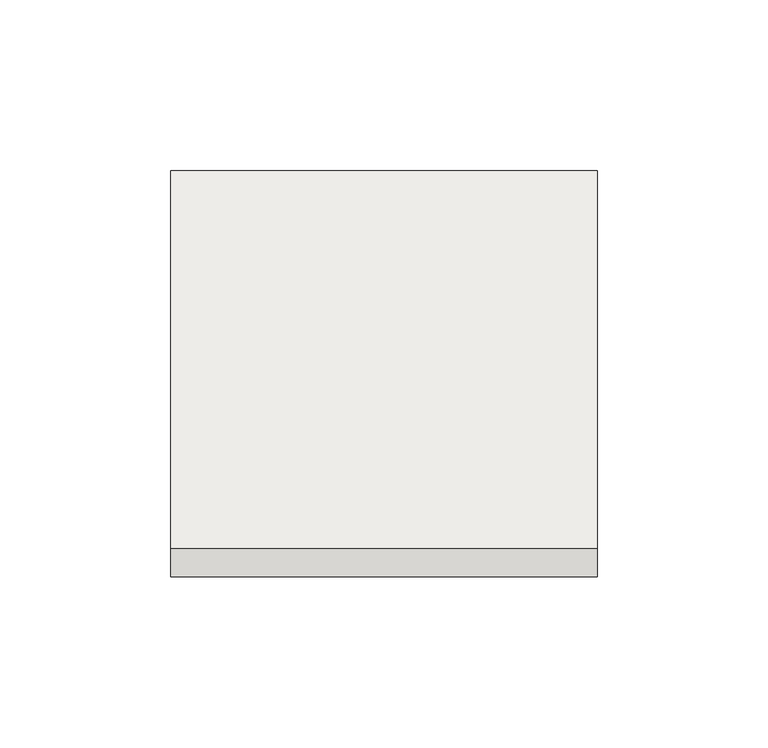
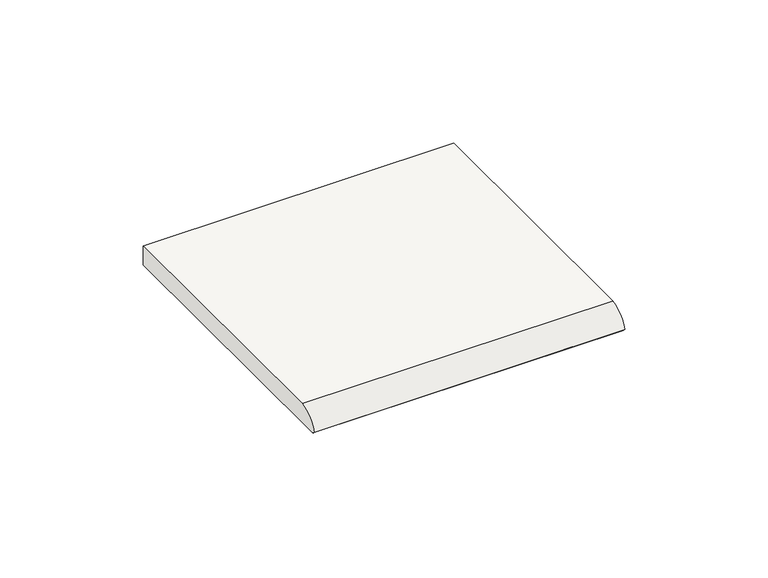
"""IFC4 building model written with IfcOpenShell, lengths in millimetres: slab geometry, ROSA GRES_013 : Pieza 013_Aqua_Marino_Liso."""

from ifc_helpers import new_model, si_unit, point, frame, frame_2d, origin, place, context, project, spatial, polyline, circle_curve, trimmed, segment, composite_curve, outline, extrude, source, transform, mapped, element, save


def slab_b96c67a0(model_context):
    return source(origin(), model_context, "Body", "SweptSolid", [
        extrude(outline(composite_curve([segment(polyline([(0.7830162, 0.0), (0.0, 0.7830162)]), True, "CONTINUOUS"), segment(trimmed(circle_curve(frame_2d((9.4741171, -1.740645)), 9.8044766), [point((0.0, 0.7830162))], [point((8.3571586, 8.0))], False, "CARTESIAN"), True, "CONTINUOUS"), segment(polyline([(8.3571586, 8.0), (119.0, 8.0), (119.0, 0.0), (0.7830162, 0.0)]), True, "CONTINUOUS")], self_intersect=False)), frame((0.0, 0.0, 0.0), z_axis=(1.0, 0.0, 0.0), x_axis=(0.0, 1.0, 0.0)), (0.0, 0.0, 1.0), 125.0),
    ])


if __name__ == "__main__":
    model = new_model("IFC4")
    model_context = context("Model", 3, world=origin())
    ifc_project = project(units=[si_unit("LENGTHUNIT", "METRE", prefix="MILLI")], contexts=[model_context])
    site = spatial("IfcSite", under=ifc_project)
    building = spatial("IfcBuilding", under=site)
    placement = place(None, origin())
    slab_shape = slab_b96c67a0(model_context)
    element("IfcSlab", 1, ObjectType="ROSA GRES_013 : Pieza 013_Aqua_Marino_Liso", at=placement, inside=building, context=model_context, shape_type="MappedRepresentation", body=[
        mapped(slab_shape, transform((0.0, 0.0, 0.0), x_axis=(1.0, 0.0, 0.0), y_axis=(0.0, 1.0, 0.0), z_axis=(0.0, 0.0, 1.0))),
    ])
    save(model, "model.ifc")
